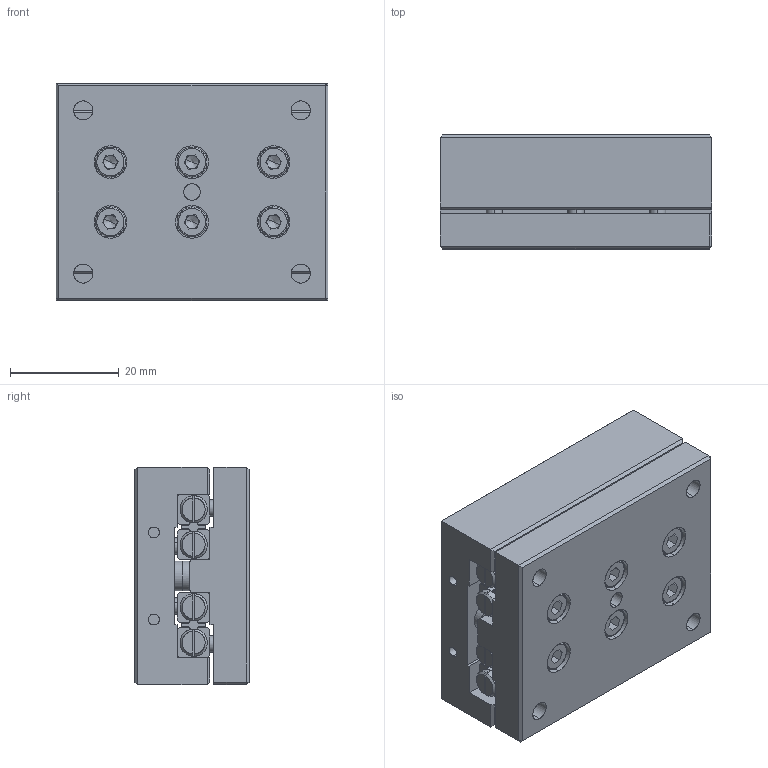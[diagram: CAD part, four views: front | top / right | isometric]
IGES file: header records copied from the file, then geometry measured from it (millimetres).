
Start section: SolidWorks IGES file using analytic representation for surfaces
Global section: file name: C:\Documents and Settings\IanO.IANOHOME\My Documents\Wix and Auto CAD Work\CAD Models\Parametric Models\Auto Models\L1020\L1020_IGES\L1020.040-050.igs; native system: SolidWorks 2009; preprocessor: SolidWorks 2009; author: IanO; date: 110922.162230; units: millimetre
Bounding box: 50 x 21 x 40 mm (x, y, z)
Surface area: 23296.5 mm2 (no closed solid volume)
Topology: 0 solids, 0 shells, 985 faces, 12488 edges, 12458 vertices
Faces by surface type: bspline 627, revolution 358
